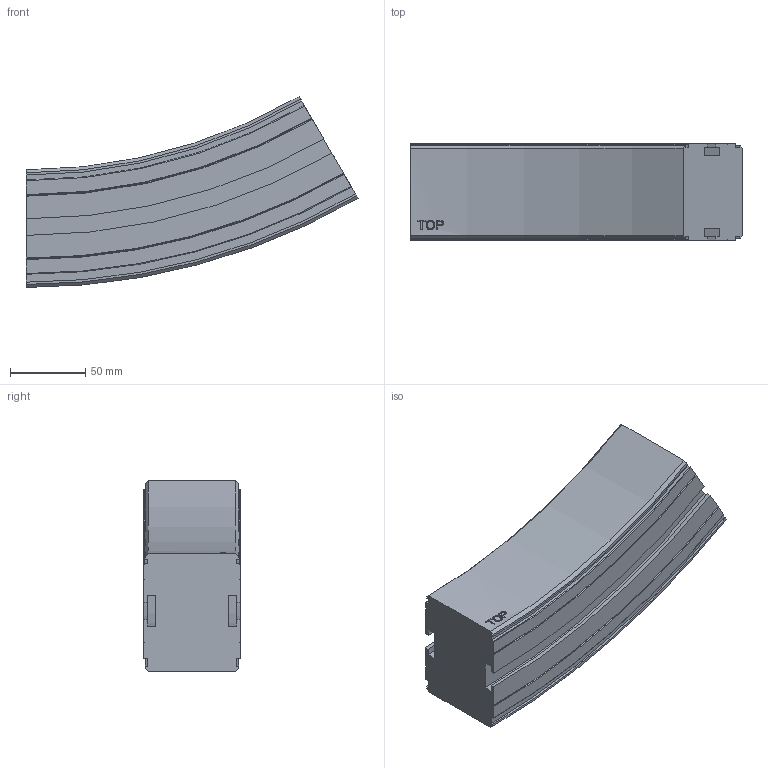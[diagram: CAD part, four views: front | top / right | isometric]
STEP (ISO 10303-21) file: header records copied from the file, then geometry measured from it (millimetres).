
FILE_DESCRIPTION((''),'2;1');
FILE_NAME('C:\Vault Klient\Projekt\Koncept konstruktion\Serie 620 Balk\620-5610_UP.stp','2009-11-26T15:37:01',('Mathias'),(''),'Autodesk Inventor 2010','Autodesk Inventor 2010','');
FILE_SCHEMA(('AUTOMOTIVE_DESIGN { 1 0 10303 214 1 1 1 1 }'));
Length unit declared in the file: millimetre
Products named in the file (1): 620-5610_UP
Bounding box: 220 x 64 x 126.5 mm (x, y, z)
Volume: 976394.4 mm3; surface area: 84962.3 mm2
Topology: 1 solids, 1 shells, 93 faces, 258 edges, 172 vertices
Faces by surface type: plane 40, cylinder 23, bspline 14, cone 12, torus 4
Entity records: 3377 total; most frequent: CARTESIAN_POINT 942, ORIENTED_EDGE 516, DIRECTION 472, EDGE_CURVE 258, VERTEX_POINT 172, AXIS2_PLACEMENT_3D 162, VECTOR 148, LINE 148
